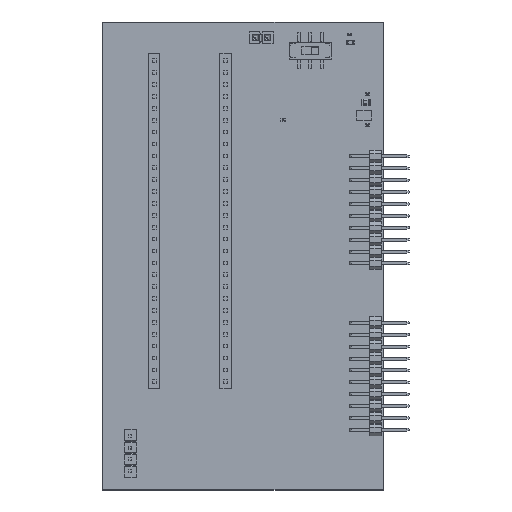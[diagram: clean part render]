
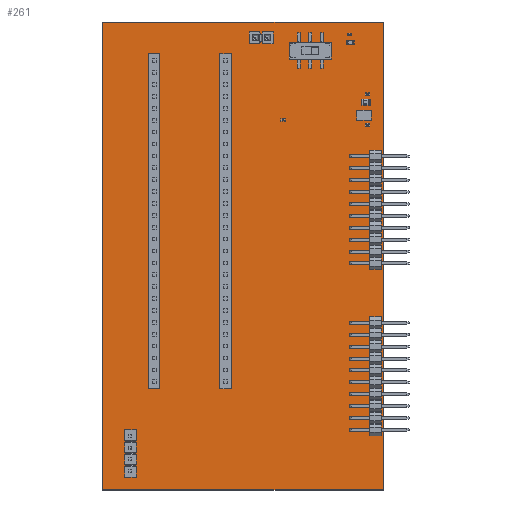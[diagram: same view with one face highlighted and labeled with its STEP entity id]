
A CAD part, top view. The second image highlights one B-rep face of the part: STEP entity #261.
In plain terms, the highlighted planar face has unit normal (0, 0, 1).
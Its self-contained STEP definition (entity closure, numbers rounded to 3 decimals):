
#132 = VERTEX_POINT('',#133);
#133 = CARTESIAN_POINT('',(-53.03,-50.95,0.411));
#139 = EDGE_CURVE('',#132,#140,#142,.T.);
#140 = VERTEX_POINT('',#141);
#141 = CARTESIAN_POINT('',(6.97,-50.95,0.411));
#142 = LINE('',#143,#144);
#143 = CARTESIAN_POINT('',(-53.03,-50.95,0.411));
#144 = VECTOR('',#145,1.);
#145 = DIRECTION('',(1.,0.,0.));
#170 = EDGE_CURVE('',#140,#171,#173,.T.);
#171 = VERTEX_POINT('',#172);
#172 = CARTESIAN_POINT('',(6.97,49.05,0.411));
#173 = LINE('',#174,#175);
#174 = CARTESIAN_POINT('',(6.97,-50.95,0.411));
#175 = VECTOR('',#176,1.);
#176 = DIRECTION('',(0.,1.,0.));
#201 = EDGE_CURVE('',#171,#202,#204,.T.);
#202 = VERTEX_POINT('',#203);
#203 = CARTESIAN_POINT('',(-53.03,49.05,0.411));
#204 = LINE('',#205,#206);
#205 = CARTESIAN_POINT('',(6.97,49.05,0.411));
#206 = VECTOR('',#207,1.);
#207 = DIRECTION('',(-1.,0.,0.));
#232 = EDGE_CURVE('',#202,#132,#233,.T.);
#233 = LINE('',#234,#235);
#234 = CARTESIAN_POINT('',(-53.03,49.05,0.411));
#235 = VECTOR('',#236,1.);
#236 = DIRECTION('',(0.,-1.,0.));
#261 = ADVANCED_FACE('',(#262),#268,.F.);
#262 = FACE_BOUND('',#263,.T.);
#263 = EDGE_LOOP('',(#264,#265,#266,#267));
#264 = ORIENTED_EDGE('',*,*,#139,.T.);
#265 = ORIENTED_EDGE('',*,*,#170,.T.);
#266 = ORIENTED_EDGE('',*,*,#201,.T.);
#267 = ORIENTED_EDGE('',*,*,#232,.T.);
#268 = PLANE('',#269);
#269 = AXIS2_PLACEMENT_3D('',#270,#271,#272);
#270 = CARTESIAN_POINT('',(-53.03,-50.95,0.411));
#271 = DIRECTION('',(0.,0.,-1.));
#272 = DIRECTION('',(-1.,0.,0.));
